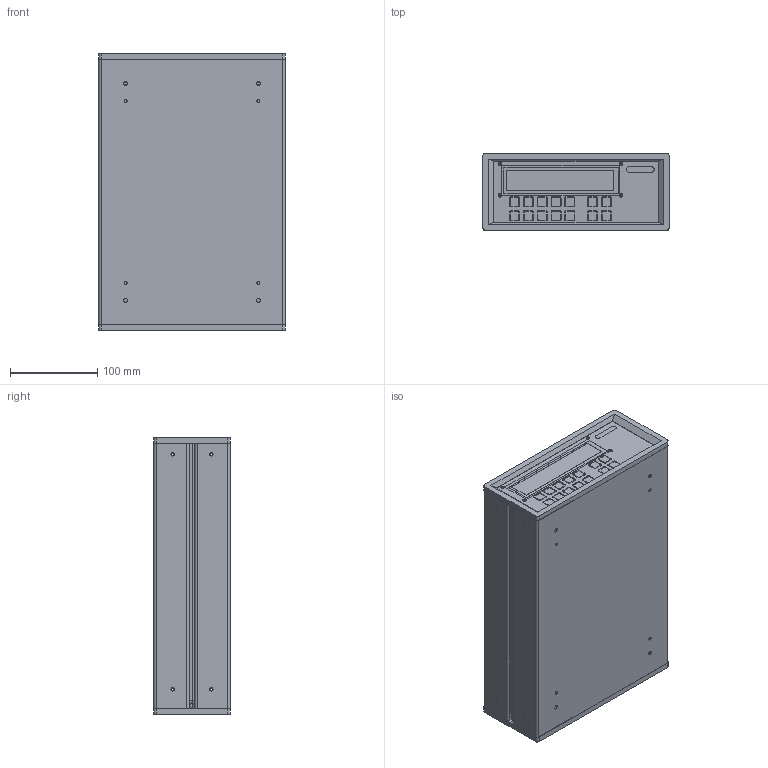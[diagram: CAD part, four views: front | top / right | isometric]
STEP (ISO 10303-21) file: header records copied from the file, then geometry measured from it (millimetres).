
FILE_DESCRIPTION (( 'STEP AP214' ), '1' );
FILE_NAME ('1425.STEP', '2021-08-10T15:25:45', ( '' ), ( '' ), 'SwSTEP 2.0', 'SolidWorks 2020', '' );
FILE_SCHEMA (( 'AUTOMOTIVE_DESIGN' ));
Length unit declared in the file: inch
Products named in the file (19): 107-425_Riveted Assembly; PEM FHS_PEM FHS-440-12; PEM SOS_PEM SOS-8632-8; 110-216; 107-457; 107-453-01_NoVents; 107-452-01_NoVents; 107-393-DET-01; PEM SOS_PEM SOSG-8632-10; 107-425-DET-03; 107-425-DET-02; PEM CLS_PEM CLS-440-2; POP RIVET 1-8 L-313; 1425; 107-453-01_NoVents_PEMS; PEM SOS_PEM SOS-632-16; PEM FHS_PEM FHS-832-8; PEM CLS_PEM CLS-632-3; 107-425-DET-01
Assembly tree (46 placements, depth 3):
  1425
    107-425_Riveted Assembly
      POP RIVET 1-8 L-313  x8
      107-425-DET-01
      PEM FHS_PEM FHS-832-8  x2
      PEM SOS_PEM SOS-8632-8  x4
      PEM SOS_PEM SOSG-8632-10  x4
      PEM CLS_PEM CLS-632-3  x4
      PEM FHS_PEM FHS-440-12  x4
      107-425-DET-03
      PEM CLS_PEM CLS-440-2  x2
      107-425-DET-02
      PEM SOS_PEM SOS-632-16  x4
    107-393-DET-01
    107-457  x2
    107-452-01_NoVents
    107-453-01_NoVents_PEMS
      107-453-01_NoVents
    110-216  x4
Bounding box: 214.38 x 88.39 x 317.5 mm (x, y, z)
Volume: 568592.5 mm3; surface area: 708277.5 mm2
Topology: 44 solids, 44 shells, 1662 faces, 4056 edges, 2602 vertices
Faces by surface type: plane 928, cylinder 592, cone 88, torus 28, bspline 26
Entity records: 34192 total; most frequent: CARTESIAN_POINT 6352, DIRECTION 5678, ORIENTED_EDGE 5388, EDGE_CURVE 2694, AXIS2_PLACEMENT_3D 1946, LINE 1786, VECTOR 1786, VERTEX_POINT 1720
